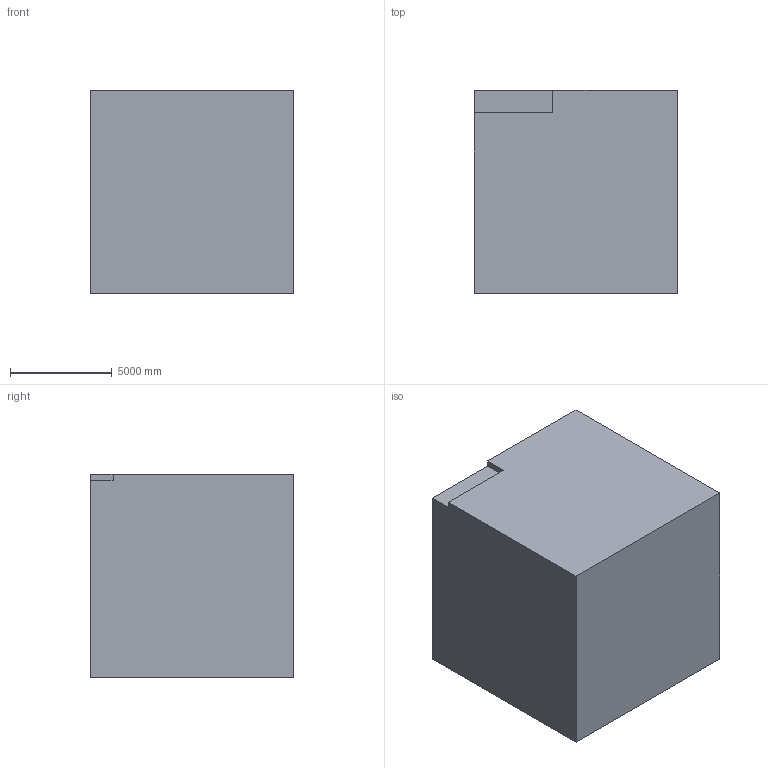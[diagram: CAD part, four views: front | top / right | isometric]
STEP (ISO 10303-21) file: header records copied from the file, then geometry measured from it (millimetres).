
FILE_DESCRIPTION (( 'STEP AP203' ), '1' );
FILE_NAME ('10.STEP', '2022-09-02T13:39:53', ( 'user' ), ( '' ), 'SwSTEP 2.0', 'SolidWorks 2021', '' );
FILE_SCHEMA (( 'CONFIG_CONTROL_DESIGN' ));
Length unit declared in the file: centimetre
Products named in the file (1): 10
Bounding box: 10000 x 10000 x 10000 mm (x, y, z)
Volume: 978445064424.1 mm3; surface area: 628898820.6 mm2
Topology: 1 solids, 1 shells, 16 faces, 39 edges, 26 vertices
Faces by surface type: plane 16
Entity records: 540 total; most frequent: CARTESIAN_POINT 82, ORIENTED_EDGE 78, DIRECTION 73, EDGE_CURVE 39, LINE 39, VECTOR 39, VERTEX_POINT 26, EDGE_LOOP 17
